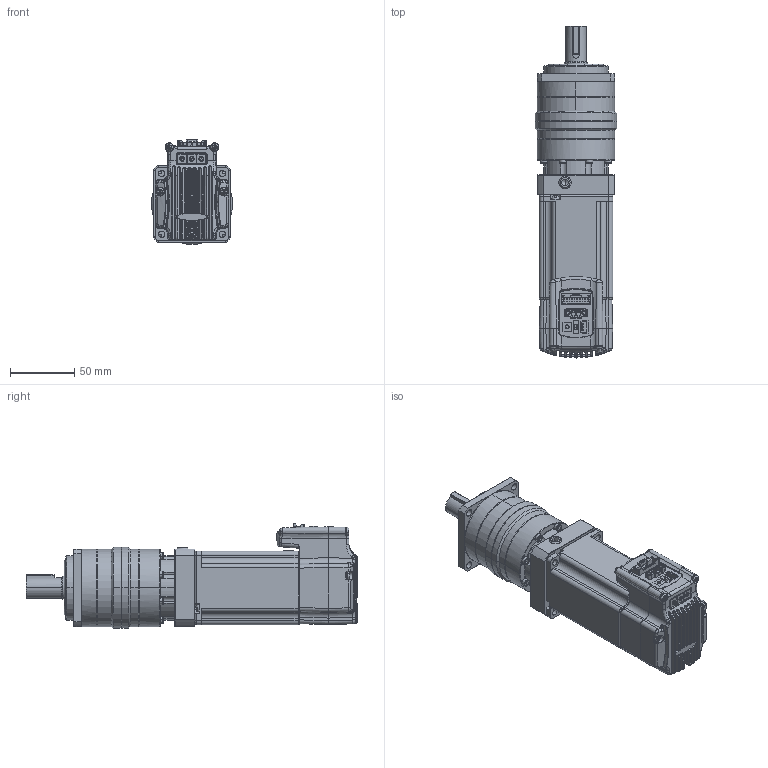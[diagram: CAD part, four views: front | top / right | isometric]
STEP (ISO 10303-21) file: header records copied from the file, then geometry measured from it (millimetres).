
FILE_DESCRIPTION (( 'STEP AP203' ), '1' );
FILE_NAME ('130416 Ezi-SERVO PG-BT-56L-PN15~50.STEP', '2013-04-17T01:16:06', ( '' ), ( '' ), 'SwSTEP 2.0', 'SolidWorks 2012', '' );
FILE_SCHEMA (( 'CONFIG_CONTROL_DESIGN' ));
Length unit declared in the file: metre
Products named in the file (40): 26_7; 25_7; 24_7; 23_7; 22_7; 21_7; 20_7; 19_7; 18_7; 17_7; 16_7; 15_7; 14_7; 13_7; 12_7; 11_7; 10_7; 9_7; 8_7; 7_7; 6_7; 5_7; 4_7; 3_7; 2_7; 1_7; 130416 Ezi-SERVO PG-BT-56L-PN15~50; ST56 2ST; 38_3; 37_7; 36_7; 35_7; 34_7; 33_7; 32_7; 31_7; 30_7; 29_7; 28_7; 27_7
Assembly tree (39 placements, depth 2):
  130416 Ezi-SERVO PG-BT-56L-PN15~50
    1_7
    2_7
    3_7
    4_7
    5_7
    6_7
    7_7
    8_7
    9_7
    10_7
    11_7
    12_7
    13_7
    14_7
    15_7
    16_7
    17_7
    18_7
    19_7
    20_7
    21_7
    22_7
    23_7
    24_7
    25_7
    26_7
    27_7
    28_7
    29_7
    30_7
    31_7
    32_7
    33_7
    34_7
    35_7
    36_7
    37_7
    38_3
    ST56 2ST
Bounding box: 63 x 257.5 x 81.43 mm (x, y, z)
Volume: 342255.6 mm3; surface area: 131888 mm2
Topology: 36 solids, 41 shells, 3667 faces, 9214 edges, 5643 vertices
Faces by surface type: plane 1598, cylinder 1142, bspline 669, cone 204, torus 54
Entity records: 171467 total; most frequent: CARTESIAN_POINT 88217, ORIENTED_EDGE 18142, DIRECTION 13411, EDGE_CURVE 9099, VERTEX_POINT 5643, AXIS2_PLACEMENT_3D 4504, LINE 4403, VECTOR 4403
